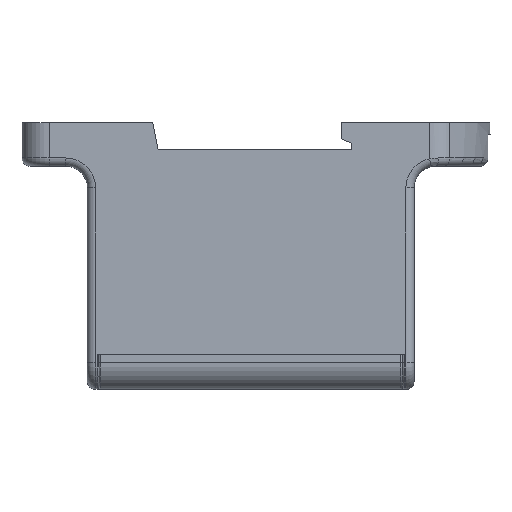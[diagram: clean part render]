
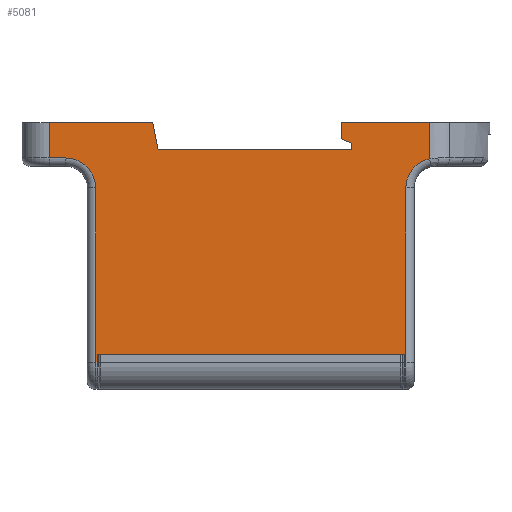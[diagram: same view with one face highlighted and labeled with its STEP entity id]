
A CAD part, front view. The second image highlights one B-rep face of the part: STEP entity #5081.
In plain terms, the highlighted planar face has unit normal (0, -1, 0).
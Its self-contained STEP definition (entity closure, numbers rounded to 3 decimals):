
#66=DIRECTION('',(1.,0.,0.));
#67=VECTOR('',#66,19.);
#68=CARTESIAN_POINT('',(-37.,-21.,0.));
#69=LINE('',#68,#67);
#144=DIRECTION('',(1.,0.,0.));
#145=VECTOR('',#144,16.254);
#146=CARTESIAN_POINT('',(16.6,-21.,0.));
#147=LINE('',#146,#145);
#919=DIRECTION('',(0.,0.,1.));
#920=VECTOR('',#919,1.5);
#921=CARTESIAN_POINT('',(-28.2,-21.,-44.));
#922=LINE('',#921,#920);
#923=DIRECTION('',(-1.,0.,0.));
#924=VECTOR('',#923,0.3);
#925=CARTESIAN_POINT('',(-28.2,-21.,-44.));
#926=LINE('',#925,#924);
#927=DIRECTION('',(0.,0.,-1.));
#928=VECTOR('',#927,32.);
#929=CARTESIAN_POINT('',(-28.5,-21.,-12.));
#930=LINE('',#929,#928);
#931=CARTESIAN_POINT('',(-34.,-21.,-12.));
#932=DIRECTION('',(0.,1.,0.));
#933=DIRECTION('',(0.,0.,1.));
#934=AXIS2_PLACEMENT_3D('',#931,#932,#933);
#936=DIRECTION('',(1.,0.,0.));
#937=VECTOR('',#936,3.);
#938=CARTESIAN_POINT('',(-37.,-21.,-6.5));
#939=LINE('',#938,#937);
#940=DIRECTION('',(0.,0.,-1.));
#941=VECTOR('',#940,6.5);
#942=CARTESIAN_POINT('',(-37.,-21.,0.));
#943=LINE('',#942,#941);
#944=DIRECTION('',(-0.196,0.,0.981));
#945=VECTOR('',#944,5.099);
#946=CARTESIAN_POINT('',(-17.,-21.,-5.));
#947=LINE('',#946,#945);
#948=DIRECTION('',(-1.,0.,0.));
#949=VECTOR('',#948,35.5);
#950=CARTESIAN_POINT('',(18.5,-21.,-5.));
#951=LINE('',#950,#949);
#952=DIRECTION('',(0.,0.,-1.));
#953=VECTOR('',#952,1.2);
#954=CARTESIAN_POINT('',(18.5,-21.,-3.8));
#955=LINE('',#954,#953);
#956=DIRECTION('',(0.922,0.,-0.388));
#957=VECTOR('',#956,2.062);
#958=CARTESIAN_POINT('',(16.6,-21.,-3.));
#959=LINE('',#958,#957);
#960=DIRECTION('',(0.,0.,-1.));
#961=VECTOR('',#960,3.);
#962=CARTESIAN_POINT('',(16.6,-21.,0.));
#963=LINE('',#962,#961);
#964=CARTESIAN_POINT('',(34.,-21.,-12.));
#965=DIRECTION('',(0.,1.,0.));
#966=DIRECTION('',(-1.,0.,0.));
#967=AXIS2_PLACEMENT_3D('',#964,#965,#966);
#969=DIRECTION('',(0.,0.,1.));
#970=VECTOR('',#969,32.);
#971=CARTESIAN_POINT('',(28.5,-21.,-44.));
#972=LINE('',#971,#970);
#973=DIRECTION('',(-1.,0.,0.));
#974=VECTOR('',#973,0.3);
#975=CARTESIAN_POINT('',(28.5,-21.,-44.));
#976=LINE('',#975,#974);
#977=DIRECTION('',(0.,0.,-1.));
#978=VECTOR('',#977,1.5);
#979=CARTESIAN_POINT('',(28.2,-21.,-42.5));
#980=LINE('',#979,#978);
#1047=DIRECTION('',(1.,0.,0.));
#1048=VECTOR('',#1047,56.4);
#1049=CARTESIAN_POINT('',(-28.2,-21.,-42.5));
#1050=LINE('',#1049,#1048);
#1361=CARTESIAN_POINT('',(32.854,-21.,
-6.621));
#1370=DIRECTION('',(0.,0.,-1.));
#1371=VECTOR('',#1370,6.621);
#1372=CARTESIAN_POINT('',(32.854,-21.,0.));
#1373=LINE('',#1372,#1371);
#3071=CARTESIAN_POINT('',(32.854,-21.,0.));
#3073=VERTEX_POINT('',#3071);
#3084=CARTESIAN_POINT('',(-37.,-21.,0.));
#3086=VERTEX_POINT('',#3084);
#3099=CARTESIAN_POINT('',(16.6,-21.,-3.));
#3100=CARTESIAN_POINT('',(18.5,-21.,-3.8));
#3101=VERTEX_POINT('',#3099);
#3102=VERTEX_POINT('',#3100);
#3103=CARTESIAN_POINT('',(18.5,-21.,-5.));
#3104=VERTEX_POINT('',#3103);
#3105=CARTESIAN_POINT('',(-17.,-21.,-5.));
#3106=VERTEX_POINT('',#3105);
#3107=CARTESIAN_POINT('',(-18.,-21.,0.));
#3108=VERTEX_POINT('',#3107);
#3109=CARTESIAN_POINT('',(16.6,-21.,0.));
#3110=VERTEX_POINT('',#3109);
#3659=CARTESIAN_POINT('',(-28.5,-21.,-12.));
#3660=CARTESIAN_POINT('',(-28.5,-21.,-44.));
#3661=VERTEX_POINT('',#3659);
#3662=VERTEX_POINT('',#3660);
#3667=CARTESIAN_POINT('',(-34.,-21.,-6.5));
#3668=VERTEX_POINT('',#3667);
#3671=CARTESIAN_POINT('',(-37.,-21.,-6.5));
#3672=VERTEX_POINT('',#3671);
#3697=VERTEX_POINT('',#1361);
#3699=CARTESIAN_POINT('',(28.5,-21.,-12.));
#3700=VERTEX_POINT('',#3699);
#3703=CARTESIAN_POINT('',(28.5,-21.,-44.));
#3704=VERTEX_POINT('',#3703);
#3899=CARTESIAN_POINT('',(-28.2,-21.,-44.));
#3900=CARTESIAN_POINT('',(-28.2,-21.,-42.5));
#3901=VERTEX_POINT('',#3899);
#3902=VERTEX_POINT('',#3900);
#3919=CARTESIAN_POINT('',(28.2,-21.,-44.));
#3920=VERTEX_POINT('',#3919);
#3923=CARTESIAN_POINT('',(28.2,-21.,-42.5));
#3924=VERTEX_POINT('',#3923);
#5041=CARTESIAN_POINT('',(-37.,-21.,0.));
#5042=DIRECTION('',(0.,-1.,0.));
#5043=DIRECTION('',(1.,0.,0.));
#5044=AXIS2_PLACEMENT_3D('',#5041,#5042,#5043);
#5045=PLANE('',#5044);
#5047=ORIENTED_EDGE('',*,*,#5046,.F.);
#5048=ORIENTED_EDGE('',*,*,#4994,.T.);
#5049=ORIENTED_EDGE('',*,*,#5032,.F.);
#5051=ORIENTED_EDGE('',*,*,#5050,.F.);
#5053=ORIENTED_EDGE('',*,*,#5052,.F.);
#5055=ORIENTED_EDGE('',*,*,#5054,.F.);
#5056=ORIENTED_EDGE('',*,*,#3990,.T.);
#5058=ORIENTED_EDGE('',*,*,#5057,.F.);
#5060=ORIENTED_EDGE('',*,*,#5059,.F.);
#5062=ORIENTED_EDGE('',*,*,#5061,.F.);
#5064=ORIENTED_EDGE('',*,*,#5063,.F.);
#5066=ORIENTED_EDGE('',*,*,#5065,.F.);
#5067=ORIENTED_EDGE('',*,*,#4032,.T.);
#5069=ORIENTED_EDGE('',*,*,#5068,.T.);
#5071=ORIENTED_EDGE('',*,*,#5070,.F.);
#5073=ORIENTED_EDGE('',*,*,#5072,.F.);
#5074=ORIENTED_EDGE('',*,*,#5006,.T.);
#5076=ORIENTED_EDGE('',*,*,#5075,.F.);
#5078=ORIENTED_EDGE('',*,*,#5077,.F.);
#5079=EDGE_LOOP('',(#5047,#5048,#5049,#5051,#5053,#5055,#5056,#5058,#5060,#5062,
#5064,#5066,#5067,#5069,#5071,#5073,#5074,#5076,#5078));
#5080=FACE_OUTER_BOUND('',#5079,.F.);
#935=CIRCLE('',#934,5.5);
#968=CIRCLE('',#967,5.5);
#3990=EDGE_CURVE('',#3086,#3108,#69,.T.);
#4032=EDGE_CURVE('',#3110,#3073,#147,.T.);
#4994=EDGE_CURVE('',#3901,#3662,#926,.T.);
#5006=EDGE_CURVE('',#3704,#3920,#976,.T.);
#5032=EDGE_CURVE('',#3661,#3662,#930,.T.);
#5046=EDGE_CURVE('',#3901,#3902,#922,.T.);
#5050=EDGE_CURVE('',#3668,#3661,#935,.T.);
#5052=EDGE_CURVE('',#3672,#3668,#939,.T.);
#5054=EDGE_CURVE('',#3086,#3672,#943,.T.);
#5057=EDGE_CURVE('',#3106,#3108,#947,.T.);
#5059=EDGE_CURVE('',#3104,#3106,#951,.T.);
#5061=EDGE_CURVE('',#3102,#3104,#955,.T.);
#5063=EDGE_CURVE('',#3101,#3102,#959,.T.);
#5065=EDGE_CURVE('',#3110,#3101,#963,.T.);
#5068=EDGE_CURVE('',#3073,#3697,#1373,.T.);
#5070=EDGE_CURVE('',#3700,#3697,#968,.T.);
#5072=EDGE_CURVE('',#3704,#3700,#972,.T.);
#5075=EDGE_CURVE('',#3924,#3920,#980,.T.);
#5077=EDGE_CURVE('',#3902,#3924,#1050,.T.);
#5081=ADVANCED_FACE('',(#5080),#5045,.T.);
